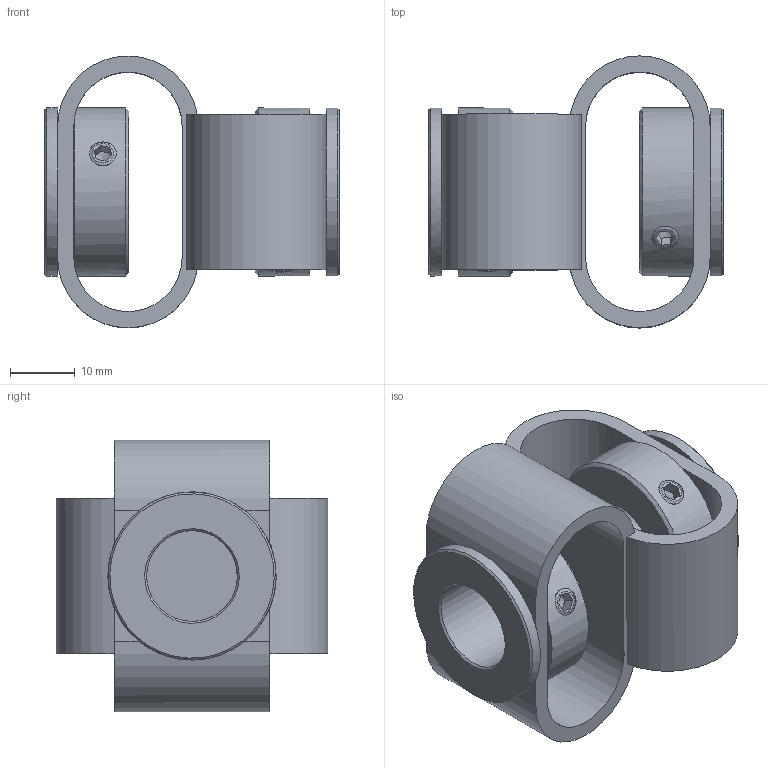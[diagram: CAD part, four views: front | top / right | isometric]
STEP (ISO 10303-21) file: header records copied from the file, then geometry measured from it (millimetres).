
FILE_DESCRIPTION(/* description */ (''),/* implementation_level */ '2;1');
FILE_NAME(/* name */ 'E:\ABP_bauteile\Doppelschlaufenkupplung\DKPS_4848\Doppelschlaufenkupplung_DKPS_4848_12_14.stp',/* time_stamp */ '2015-03-13T14:23:52+01:00',/* author */ ('Rob'),/* organization */ (''),/* preprocessor_version */ 'ST-DEVELOPER v15.6',/* originating_system */ 'Autodesk Inventor 2015',/* authorisation */ '');
FILE_SCHEMA (('CONFIG_CONTROL_DESIGN'));
Length unit declared in the file: millimetre
Products named in the file (1): Bauteil76
Bounding box: 45.55 x 42.03 x 42.03 mm (x, y, z)
Volume: 18329.7 mm3; surface area: 13369.3 mm2
Topology: 1 solids, 2 shells, 134 faces, 311 edges, 188 vertices
Faces by surface type: plane 83, cylinder 27, cone 24
Full cylindrical faces by diameter (mm): 4.134 x8, 12 x1, 14 x1, 16.5 x2, 18 x3, 26 x4
Entity records: 3580 total; most frequent: CARTESIAN_POINT 849, DIRECTION 588, ORIENTED_EDGE 470, EDGE_CURVE 235, AXIS2_PLACEMENT_3D 234, EDGE_LOOP 198, VERTEX_POINT 155, FACE_OUTER_BOUND 134
